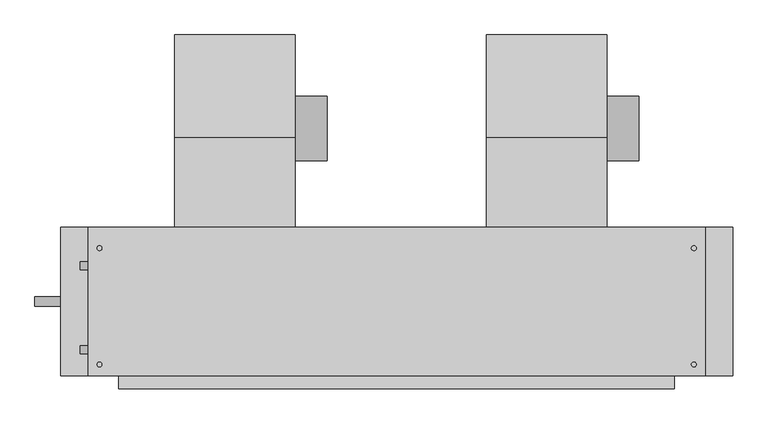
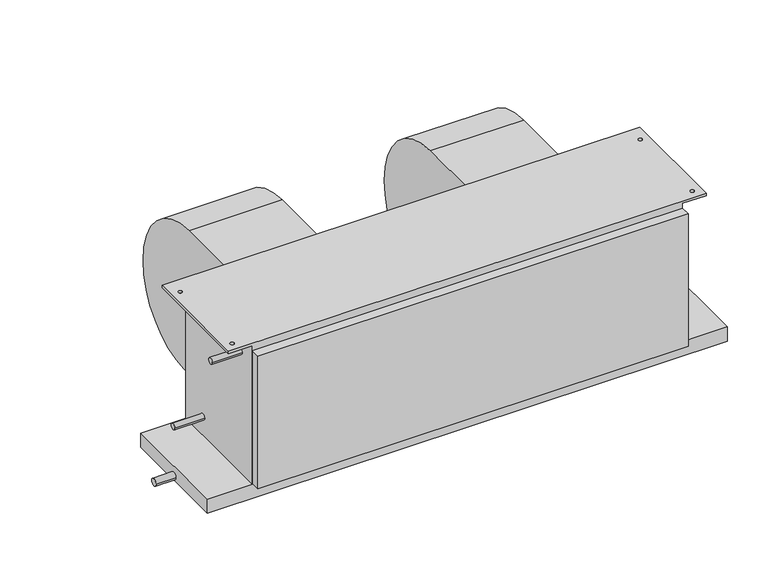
"""IFC4 building model written with IfcOpenShell, lengths in millimetres: proxy geometry, Concealed_High_Capacity_Horizontal_Fan_Coil_Unit_-_42DAA_-_CARRIER_-_2-Pipe_Cool-EHeat_LH_2022 : Size 18 - 277v/60Hz/1Ph - 6 Row 12.0kW."""

from ifc_helpers import new_model, si_unit, point, frame, frame_2d, origin, place, context, project, spatial, polyline, circle_curve, trimmed, segment, composite_curve, outline, extrude, source, transform, mapped, element, save
from ifc_brep_helpers import plane_surface, cylinder_surface, revolved_surface, advanced_brep


def mechanical_equipment_f518d2dd(model_context):
    return source(origin(), model_context, "Body", "SolidModel", [
        extrude(outline(composite_curve([segment(trimmed(circle_curve(frame_2d((102.0007598, -206.8897468)), 63.5), [point((165.5007598, -206.8897468))], [point((38.5007598, -206.8897468))], False, "CARTESIAN"), True, "CONTINUOUS"), segment(trimmed(circle_curve(frame_2d((102.0007598, -206.8897468)), 63.5), [point((38.5007598, -206.8897468))], [point((165.5007598, -206.8897468))], False, "CARTESIAN"), True, "CONTINUOUS")], self_intersect=False)), frame((-47.625, 0.0, 0.0), z_axis=(1.0, 0.0, 0.0), x_axis=(0.0, 1.0, 0.0)), (0.0, 0.0, 1.0), 63.5),
        advanced_brep(
        [(-284.099, 285.5155957, -222.029602), (-284.099, 104.6226, -403.64664), (-284.099, -50.9016, -277.10638), (-284.099, -92.075, -277.10638), (-284.099, -92.075, -19.05), (-284.099, 83.0080093, -19.05), (-47.625, 285.5155957, -222.029602), (-47.625, 83.0080093, -19.05), (-47.625, -92.075, -19.05), (-47.625, -92.075, -277.10638), (-47.625, -50.9016, -277.10638), (-47.625, 104.622599, -403.6457839)],
        [
            (0, 1, circle_curve(frame((-284.099, 104.44226, -222.57258), z_axis=(-1.0, 0.0, 0.0), x_axis=(0.0, -1.0, 0.0)), 181.0741498)),
            (1, 2, circle_curve(frame((-284.099, 104.44226, -245.02364), z_axis=(-1.0, 0.0, 0.0), x_axis=(0.0, -1.0, 0.0)), 158.6222464)),
            (2, 3),
            (3, 4),
            (4, 5),
            (5, 0, circle_curve(frame((-284.099, 81.9912, -222.57258), z_axis=(-1.0, 0.0, 0.0), x_axis=(0.0, -1.0, 0.0)), 203.52512)),
            (6, 7, circle_curve(frame((-47.625, 81.9912, -222.57258), z_axis=(1.0, 0.0, 0.0), x_axis=(0.0, -1.0, 0.0)), 203.52512)),
            (7, 8),
            (8, 9),
            (9, 10),
            (10, 11, circle_curve(frame((-47.625, 104.44226, -245.02364), z_axis=(1.0, 0.0, 0.0), x_axis=(0.0, -1.0, 0.0)), 158.6222464)),
            (11, 6, circle_curve(frame((-47.625, 104.44226, -222.57258), z_axis=(1.0, 0.0, 0.0), x_axis=(0.0, -1.0, 0.0)), 181.0741498)),
            (0, 6),
            (11, 1),
            (10, 2),
            (9, 3),
            (8, 4),
            (7, 5),
        ],
        [
            plane_surface(frame((-284.099, -76.6318898, -222.57258), z_axis=(-1.0, 0.0, 0.0), x_axis=(0.0, 0.0, 1.0))),
            plane_surface(frame((-47.625, -76.6318898, -222.57258), z_axis=(1.0, 0.0, 0.0), x_axis=(0.0, 0.0, -1.0))),
            cylinder_surface(frame((-47.625, 104.44226, -222.57258), z_axis=(-1.0, 0.0, 0.0), x_axis=(0.0, -1.0, 0.0)), 181.0741498),
            cylinder_surface(frame((-47.625, 104.44226, -245.02364), z_axis=(-1.0, 0.0, 0.0), x_axis=(0.0, -1.0, 0.0)), 158.6222464),
            plane_surface(frame((-284.099, -50.9016, -277.10638), z_axis=(0.0, 0.0, -1.0), x_axis=(1.0, 0.0, 0.0))),
            plane_surface(frame((-284.099, -92.075, -277.10638), z_axis=(0.0, -1.0, 0.0), x_axis=(1.0, 0.0, 0.0))),
            plane_surface(frame((-284.099, -92.075, -19.05), z_axis=(0.0, 0.0, 1.0), x_axis=(1.0, 0.0, 0.0))),
            cylinder_surface(frame((-47.625, 81.9912, -222.57258), z_axis=(-1.0, 0.0, 0.0), x_axis=(0.0, -1.0, 0.0)), 203.52512),
        ],
        [
            (0, [[1, 2, 3, 4, 5, 6]]),
            (1, [[7, 8, 9, 10, 11, 12]]),
            (2, [[-1, 13, -12, 14]]),
            (3, [[-2, -14, -11, 15]]),
            (4, [[-3, -15, -10, 16]]),
            (5, [[-4, -16, -9, 17]]),
            (6, [[-5, -17, -8, 18]]),
            (7, [[-6, -18, -7, -13]]),
        ],
    ),
        extrude(outline(composite_curve([segment(trimmed(circle_curve(frame_2d((102.0007598, -206.8897468)), 63.5), [point((165.5007598, -206.8897468))], [point((38.5007598, -206.8897468))], False, "CARTESIAN"), True, "CONTINUOUS"), segment(trimmed(circle_curve(frame_2d((102.0007598, -206.8897468)), 63.5), [point((38.5007598, -206.8897468))], [point((165.5007598, -206.8897468))], False, "CARTESIAN"), True, "CONTINUOUS")], self_intersect=False)), frame((565.15, 0.0, 0.0), z_axis=(1.0, 0.0, 0.0), x_axis=(0.0, 1.0, 0.0)), (0.0, 0.0, 1.0), 63.5),
        advanced_brep(
        [(328.676, 285.5155957, -222.029602), (328.676, 104.6226, -403.64664), (328.676, -50.9016, -277.10638), (328.676, -92.075, -277.10638), (328.676, -92.075, -19.05), (328.676, 83.0080093, -19.05), (565.15, 285.5155957, -222.029602), (565.15, 83.0080093, -19.05), (565.15, -92.075, -19.05), (565.15, -92.075, -277.10638), (565.15, -50.9016, -277.10638), (565.15, 104.622599, -403.6457839)],
        [
            (0, 1, circle_curve(frame((328.676, 104.44226, -222.57258), z_axis=(-1.0, 0.0, 0.0), x_axis=(0.0, -1.0, 0.0)), 181.0741498)),
            (1, 2, circle_curve(frame((328.676, 104.44226, -245.02364), z_axis=(-1.0, 0.0, 0.0), x_axis=(0.0, -1.0, 0.0)), 158.6222464)),
            (2, 3),
            (3, 4),
            (4, 5),
            (5, 0, circle_curve(frame((328.676, 81.9912, -222.57258), z_axis=(-1.0, 0.0, 0.0), x_axis=(0.0, -1.0, 0.0)), 203.52512)),
            (6, 7, circle_curve(frame((565.15, 81.9912, -222.57258), z_axis=(1.0, 0.0, 0.0), x_axis=(0.0, -1.0, 0.0)), 203.52512)),
            (7, 8),
            (8, 9),
            (9, 10),
            (10, 11, circle_curve(frame((565.15, 104.44226, -245.02364), z_axis=(1.0, 0.0, 0.0), x_axis=(0.0, -1.0, 0.0)), 158.6222464)),
            (11, 6, circle_curve(frame((565.15, 104.44226, -222.57258), z_axis=(1.0, 0.0, 0.0), x_axis=(0.0, -1.0, 0.0)), 181.0741498)),
            (0, 6),
            (11, 1),
            (10, 2),
            (9, 3),
            (8, 4),
            (7, 5),
        ],
        [
            plane_surface(frame((328.676, -76.6318898, -222.57258), z_axis=(-1.0, 0.0, 0.0), x_axis=(0.0, 0.0, 1.0))),
            plane_surface(frame((565.15, -76.6318898, -222.57258), z_axis=(1.0, 0.0, 0.0), x_axis=(0.0, 0.0, -1.0))),
            cylinder_surface(frame((565.15, 104.44226, -222.57258), z_axis=(-1.0, 0.0, 0.0), x_axis=(0.0, -1.0, 0.0)), 181.0741498),
            cylinder_surface(frame((565.15, 104.44226, -245.02364), z_axis=(-1.0, 0.0, 0.0), x_axis=(0.0, -1.0, 0.0)), 158.6222464),
            plane_surface(frame((328.676, -50.9016, -277.10638), z_axis=(0.0, 0.0, -1.0), x_axis=(1.0, 0.0, 0.0))),
            plane_surface(frame((328.676, -92.075, -277.10638), z_axis=(0.0, -1.0, 0.0), x_axis=(1.0, 0.0, 0.0))),
            plane_surface(frame((328.676, -92.075, -19.05), z_axis=(0.0, 0.0, 1.0), x_axis=(1.0, 0.0, 0.0))),
            cylinder_surface(frame((565.15, 81.9912, -222.57258), z_axis=(-1.0, 0.0, 0.0), x_axis=(0.0, -1.0, 0.0)), 203.52512),
        ],
        [
            (0, [[1, 2, 3, 4, 5, 6]]),
            (1, [[7, 8, 9, 10, 11, 12]]),
            (2, [[-1, 13, -12, 14]]),
            (3, [[-2, -14, -11, 15]]),
            (4, [[-3, -15, -10, 16]]),
            (5, [[-4, -16, -9, 17]]),
            (6, [[-5, -17, -8, 18]]),
            (7, [[-6, -18, -7, -13]]),
        ],
    ),
        advanced_brep(
        [(758.825, -92.075, -6.35), (758.825, -384.175, -6.35), (698.5, -384.175, -6.35), (698.5, -92.075, -6.35), (731.8375, -133.35, -6.35), (741.3625, -133.35, -6.35), (731.8375, -361.95, -6.35), (741.3625, -361.95, -6.35), (-454.025, -92.075, -6.35), (-393.7, -92.075, -6.35), (-393.7, -384.175, -6.35), (-454.025, -384.175, -6.35), (-436.5625, -133.35, -6.35), (-427.0375, -133.35, -6.35), (-436.5625, -361.95, -6.35), (-427.0375, -361.95, -6.35), (758.825, -384.175, 0.0), (758.825, -92.075, 0.0), (-454.025, -92.075, 0.0), (-454.025, -384.175, 0.0), (-427.0375, -133.35, 0.0), (-436.5625, -133.35, 0.0), (-427.0375, -361.95, 0.0), (-436.5625, -361.95, 0.0), (741.3625, -133.35, 0.0), (731.8375, -133.35, 0.0), (741.3625, -361.95, 0.0), (731.8375, -361.95, 0.0), (698.5, -92.075, -377.825), (-393.7, -92.075, -377.825), (-393.7, -384.175, -377.825), (698.5, -384.175, -377.825)],
        [
            (0, 1),
            (1, 2),
            (2, 3),
            (3, 0),
            (4, 5, circle_curve(frame((736.6, -133.35, -6.35), z_axis=(0.0, 0.0, 1.0), x_axis=(1.0, 0.0, 0.0)), 4.7625)),
            (5, 4, circle_curve(frame((736.6, -133.35, -6.35), z_axis=(0.0, 0.0, 1.0), x_axis=(1.0, 0.0, 0.0)), 4.7625)),
            (6, 7, circle_curve(frame((736.6, -361.95, -6.35), z_axis=(0.0, 0.0, 1.0), x_axis=(1.0, 0.0, 0.0)), 4.7625)),
            (7, 6, circle_curve(frame((736.6, -361.95, -6.35), z_axis=(0.0, 0.0, 1.0), x_axis=(1.0, 0.0, 0.0)), 4.7625)),
            (8, 9),
            (9, 10),
            (10, 11),
            (11, 8),
            (12, 13, circle_curve(frame((-431.8, -133.35, -6.35), z_axis=(0.0, 0.0, 1.0), x_axis=(1.0, 0.0, 0.0)), 4.7625)),
            (13, 12, circle_curve(frame((-431.8, -133.35, -6.35), z_axis=(0.0, 0.0, 1.0), x_axis=(1.0, 0.0, 0.0)), 4.7625)),
            (14, 15, circle_curve(frame((-431.8, -361.95, -6.35), z_axis=(0.0, 0.0, 1.0), x_axis=(1.0, 0.0, 0.0)), 4.7625)),
            (15, 14, circle_curve(frame((-431.8, -361.95, -6.35), z_axis=(0.0, 0.0, 1.0), x_axis=(1.0, 0.0, 0.0)), 4.7625)),
            (16, 17),
            (17, 18),
            (18, 19),
            (19, 16),
            (20, 21, circle_curve(frame((-431.8, -133.35, 0.0), z_axis=(0.0, 0.0, -1.0), x_axis=(1.0, 0.0, 0.0)), 4.7625)),
            (21, 20, circle_curve(frame((-431.8, -133.35, 0.0), z_axis=(0.0, 0.0, -1.0), x_axis=(1.0, 0.0, 0.0)), 4.7625)),
            (22, 23, circle_curve(frame((-431.8, -361.95, 0.0), z_axis=(0.0, 0.0, -1.0), x_axis=(1.0, 0.0, 0.0)), 4.7625)),
            (23, 22, circle_curve(frame((-431.8, -361.95, 0.0), z_axis=(0.0, 0.0, -1.0), x_axis=(1.0, 0.0, 0.0)), 4.7625)),
            (24, 25, circle_curve(frame((736.6, -133.35, 0.0), z_axis=(0.0, 0.0, -1.0), x_axis=(1.0, 0.0, 0.0)), 4.7625)),
            (25, 24, circle_curve(frame((736.6, -133.35, 0.0), z_axis=(0.0, 0.0, -1.0), x_axis=(1.0, 0.0, 0.0)), 4.7625)),
            (26, 27, circle_curve(frame((736.6, -361.95, 0.0), z_axis=(0.0, 0.0, -1.0), x_axis=(1.0, 0.0, 0.0)), 4.7625)),
            (27, 26, circle_curve(frame((736.6, -361.95, 0.0), z_axis=(0.0, 0.0, -1.0), x_axis=(1.0, 0.0, 0.0)), 4.7625)),
            (3, 28),
            (28, 29),
            (29, 9),
            (8, 18),
            (17, 0),
            (1, 16),
            (19, 11),
            (10, 30),
            (30, 31),
            (31, 2),
            (28, 31),
            (30, 29),
            (20, 13),
            (12, 21),
            (22, 15),
            (14, 23),
            (24, 5),
            (4, 25),
            (26, 7),
            (6, 27),
        ],
        [
            plane_surface(frame((698.5, -92.075, -6.35), z_axis=(0.0, 0.0, -1.0), x_axis=(1.0, 0.0, 0.0))),
            plane_surface(frame((698.5, -92.075, 0.0), z_axis=(0.0, 0.0, 1.0), x_axis=(-1.0, 0.0, 0.0))),
            plane_surface(frame((758.825, -92.075, 0.0), z_axis=(0.0, 1.0, 0.0), x_axis=(0.0, 0.0, -1.0))),
            plane_surface(frame((698.5, -384.175, 0.0), z_axis=(0.0, -1.0, 0.0), x_axis=(0.0, 0.0, -1.0))),
            plane_surface(frame((758.825, -384.175, 0.0), z_axis=(1.0, 0.0, 0.0), x_axis=(0.0, 0.0, -1.0))),
            plane_surface(frame((-454.025, -92.075, 0.0), z_axis=(-1.0, 0.0, 0.0), x_axis=(0.0, 0.0, -1.0))),
            plane_surface(frame((-393.7, -92.075, -377.825), z_axis=(0.0, 0.0, -1.0), x_axis=(1.0, 0.0, 0.0))),
            plane_surface(frame((-393.7, -92.075, 0.0), z_axis=(-1.0, 0.0, 0.0), x_axis=(0.0, 0.0, -1.0))),
            plane_surface(frame((698.5, -384.175, 0.0), z_axis=(1.0, 0.0, 0.0), x_axis=(0.0, 0.0, -1.0))),
            revolved_surface(polyline([(-427.0375, -133.35, 0.0), (-427.0375, -133.35, -6.35)]), (-431.8, -133.35, -6.35), (0.0, 0.0, 1.0)),
            revolved_surface(polyline([(-427.0375, -361.95, 0.0), (-427.0375, -361.95, -6.35)]), (-431.8, -361.95, 0.0), (0.0, 0.0, 1.0)),
            revolved_surface(polyline([(741.3625000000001, -133.35, 0.0), (741.3625000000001, -133.35, -6.35)]), (736.6, -133.35, 0.0), (0.0, 0.0, 1.0)),
            revolved_surface(polyline([(741.3625000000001, -361.95, 0.0), (741.3625000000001, -361.95, -6.35)]), (736.6, -361.95, 0.0), (0.0, 0.0, 1.0)),
        ],
        [
            (0, [[1, 2, 3, 4], [5, 6], [7, 8]]),
            (0, [[9, 10, 11, 12], [13, 14], [15, 16]]),
            (1, [[17, 18, 19, 20], [21, 22], [23, 24], [25, 26], [27, 28]]),
            (2, [[-4, 29, 30, 31, -9, 32, -18, 33]]),
            (3, [[-2, 34, -20, 35, -11, 36, 37, 38]]),
            (4, [[-1, -33, -17, -34]]),
            (5, [[-12, -35, -19, -32]]),
            (6, [[39, -37, 40, -30]]),
            (7, [[-40, -36, -10, -31]]),
            (8, [[-39, -29, -3, -38]]),
            (9, [[41, -13, 42, -21]]),
            (9, [[-41, -22, -42, -14]]),
            (10, [[43, -15, 44, -23]]),
            (10, [[-43, -24, -44, -16]]),
            (11, [[45, -5, 46, -25]]),
            (11, [[-45, -26, -46, -6]]),
            (12, [[47, -7, 48, -27]]),
            (12, [[-47, -28, -48, -8]]),
        ],
    ),
        extrude(outline(composite_curve([segment(trimmed(circle_curve(frame_2d((-238.125, -403.225)), 9.525), [point((-247.65, -403.225))], [point((-228.6, -403.225))], False, "CARTESIAN"), True, "CONTINUOUS"), segment(trimmed(circle_curve(frame_2d((-238.125, -403.225)), 9.525), [point((-228.6, -403.225))], [point((-247.65, -403.225))], False, "CARTESIAN"), True, "CONTINUOUS")], self_intersect=False)), frame((-558.8, 0.0, 0.0), z_axis=(1.0, 0.0, 0.0), x_axis=(0.0, 1.0, 0.0)), (0.0, 0.0, 1.0), 50.8),
        extrude(outline(composite_curve([segment(trimmed(circle_curve(frame_2d((-333.375, -50.8)), 7.9375), [point((-341.3125, -50.8))], [point((-325.4375, -50.8))], False, "CARTESIAN"), True, "CONTINUOUS"), segment(trimmed(circle_curve(frame_2d((-333.375, -50.8)), 7.9375), [point((-325.4375, -50.8))], [point((-341.3125, -50.8))], False, "CARTESIAN"), True, "CONTINUOUS")], self_intersect=False)), frame((-469.9, 0.0, 0.0), z_axis=(1.0, 0.0, 0.0), x_axis=(0.0, 1.0, 0.0)), (0.0, 0.0, 1.0), 76.2),
        extrude(outline(composite_curve([segment(trimmed(circle_curve(frame_2d((-168.275, -327.025)), 7.9375), [point((-176.2125, -327.025))], [point((-160.3375, -327.025))], False, "CARTESIAN"), True, "CONTINUOUS"), segment(trimmed(circle_curve(frame_2d((-168.275, -327.025)), 7.9375), [point((-160.3375, -327.025))], [point((-176.2125, -327.025))], False, "CARTESIAN"), True, "CONTINUOUS")], self_intersect=False)), frame((-469.9, 0.0, 0.0), z_axis=(1.0, 0.0, 0.0), x_axis=(0.0, 1.0, 0.0)), (0.0, 0.0, 1.0), 76.2),
        extrude(outline(polyline([(698.5, -409.575), (-393.7, -409.575), (-393.7, -384.175), (698.5, -384.175), (698.5, -409.575)])), frame((0.0, 0.0, -374.65), z_axis=(0.0, 0.0, 1.0), x_axis=(1.0, 0.0, 0.0)), (0.0, 0.0, 1.0), 355.6),
        extrude(outline(polyline([(812.8, -92.075), (812.8, -384.175), (-508.0, -384.175), (-508.0, -92.075), (812.8, -92.075)])), frame((0.0, 0.0, -415.925), z_axis=(0.0, 0.0, 1.0), x_axis=(1.0, 0.0, 0.0)), (0.0, 0.0, 1.0), 38.1),
    ])


if __name__ == "__main__":
    model = new_model("IFC4")
    model_context = context("Model", 3, world=origin())
    ifc_project = project(units=[si_unit("LENGTHUNIT", "METRE", prefix="MILLI")], contexts=[model_context])
    site = spatial("IfcSite", under=ifc_project)
    building = spatial("IfcBuilding", under=site)
    placement = place(None, origin())
    mechanical_equipment_shape = mechanical_equipment_f518d2dd(model_context)
    element("IfcBuildingElementProxy", 1, Name="Concealed_High_Capacity_Horizontal_Fan_Coil_Unit_-_42DAA_-_CARRIER_-_2-Pipe_Cool-EHeat_LH_2022 : Size 18 - 277v/60Hz/1Ph - 6 Row 12.0kW", ObjectType="Concealed_High_Capacity_Horizontal_Fan_Coil_Unit_-_42DAA_-_CARRIER_-_2-Pipe_Cool-EHeat_LH_2022 : Size 18 - 277v/60Hz/1Ph - 6 Row 12.0kW", at=placement, inside=building, context=model_context, shape_type="MappedRepresentation", body=[
        mapped(mechanical_equipment_shape, transform((0.0, 0.0, 0.0), x_axis=(1.0, 0.0, 0.0), y_axis=(0.0, 1.0, 0.0), z_axis=(0.0, 0.0, 1.0))),
    ])
    save(model, "model.ifc")
